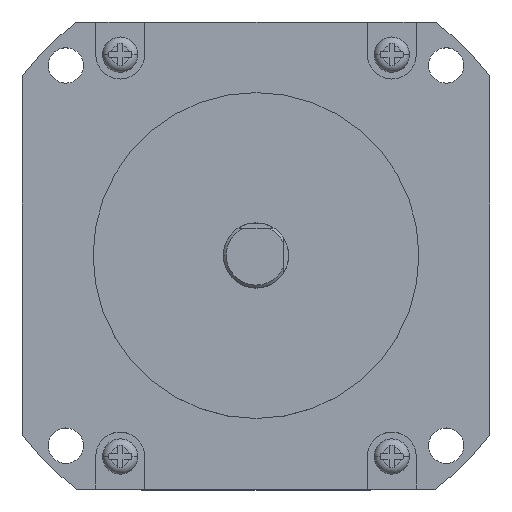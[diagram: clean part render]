
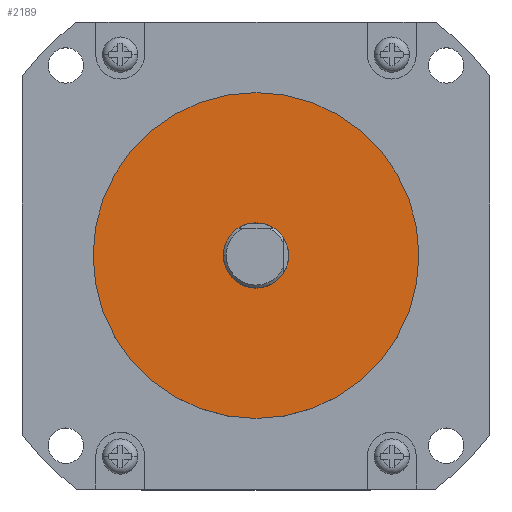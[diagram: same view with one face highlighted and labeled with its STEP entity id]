
A CAD part, top view. The second image highlights one B-rep face of the part: STEP entity #2189.
In plain terms, the highlighted planar face has unit normal (0, 0, 1).
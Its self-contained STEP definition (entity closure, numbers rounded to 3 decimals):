
#293 = CARTESIAN_POINT ( 'NONE',  ( 6., 0., 6.25 ) ) ;
#399 = CARTESIAN_POINT ( 'NONE',  ( -30., 0., 6.25 ) ) ;
#406 = CARTESIAN_POINT ( 'NONE',  ( -6., 0., 6.25 ) ) ;
#722 = DIRECTION ( 'NONE',  ( 1., 0., 0. ) ) ;
#725 = DIRECTION ( 'NONE',  ( 0., 0., 1. ) ) ;
#734 = CARTESIAN_POINT ( 'NONE',  ( 0., 0., 6.25 ) ) ;
#898 = DIRECTION ( 'NONE',  ( 1., 0., 0. ) ) ;
#899 = DIRECTION ( 'NONE',  ( 0., 0., 1. ) ) ;
#908 = CARTESIAN_POINT ( 'NONE',  ( 0., 0., 6.25 ) ) ;
#1116 = EDGE_CURVE ( 'NONE', #7301, #1681, #4409, .T. ) ;
#1133 = EDGE_CURVE ( 'NONE', #1831, #1666, #4433, .T. ) ;
#1385 = EDGE_LOOP ( 'NONE', ( #6344, #6343 ) ) ;
#1666 = VERTEX_POINT ( 'NONE', #406 ) ;
#1681 = VERTEX_POINT ( 'NONE', #399 ) ;
#1831 = VERTEX_POINT ( 'NONE', #293 ) ;
#1896 = EDGE_CURVE ( 'NONE', #1666, #1831, #4569, .T. ) ;
#1897 = EDGE_CURVE ( 'NONE', #1681, #7301, #4571, .T. ) ;
#2189 = ADVANCED_FACE ( 'NONE', ( #2327, #2326 ), #3889, .T. ) ;
#2326 = FACE_BOUND ( 'NONE', #6672, .T. ) ;
#2327 = FACE_OUTER_BOUND ( 'NONE', #1385, .T. ) ;
#3040 = CARTESIAN_POINT ( 'NONE',  ( 30., 0., 6.25 ) ) ;
#3103 = CARTESIAN_POINT ( 'NONE',  ( 0., 0., 6.25 ) ) ;
#3105 = CARTESIAN_POINT ( 'NONE',  ( 0., 0., 6.25 ) ) ;
#3107 = DIRECTION ( 'NONE',  ( 0., 0., 1. ) ) ;
#3108 = DIRECTION ( 'NONE',  ( 1., 0., 0. ) ) ;
#3109 = DIRECTION ( 'NONE',  ( 0., 0., 1. ) ) ;
#3110 = DIRECTION ( 'NONE',  ( 1., 0., 0. ) ) ;
#3870 = CARTESIAN_POINT ( 'NONE',  ( 0., 0., 6.25 ) ) ;
#3889 = PLANE ( 'NONE',  #7066 ) ;
#3890 = DIRECTION ( 'NONE',  ( 0., 0., 1. ) ) ;
#3891 = DIRECTION ( 'NONE',  ( 1., 0., 0. ) ) ;
#4409 = CIRCLE ( 'NONE', #6830, 30. ) ;
#4433 = CIRCLE ( 'NONE', #6842, 6. ) ;
#4569 = CIRCLE ( 'NONE', #6902, 6. ) ;
#4571 = CIRCLE ( 'NONE', #6900, 30. ) ;
#6341 = ORIENTED_EDGE ( 'NONE', *, *, #1133, .F. ) ;
#6342 = ORIENTED_EDGE ( 'NONE', *, *, #1896, .F. ) ;
#6343 = ORIENTED_EDGE ( 'NONE', *, *, #1116, .T. ) ;
#6344 = ORIENTED_EDGE ( 'NONE', *, *, #1897, .T. ) ;
#6672 = EDGE_LOOP ( 'NONE', ( #6342, #6341 ) ) ;
#6830 = AXIS2_PLACEMENT_3D ( 'NONE', #734, #725, #722 ) ;
#6842 = AXIS2_PLACEMENT_3D ( 'NONE', #908, #899, #898 ) ;
#6900 = AXIS2_PLACEMENT_3D ( 'NONE', #3103, #3109, #3110 ) ;
#6902 = AXIS2_PLACEMENT_3D ( 'NONE', #3105, #3107, #3108 ) ;
#7066 = AXIS2_PLACEMENT_3D ( 'NONE', #3870, #3890, #3891 ) ;
#7301 = VERTEX_POINT ( 'NONE', #3040 ) ;
